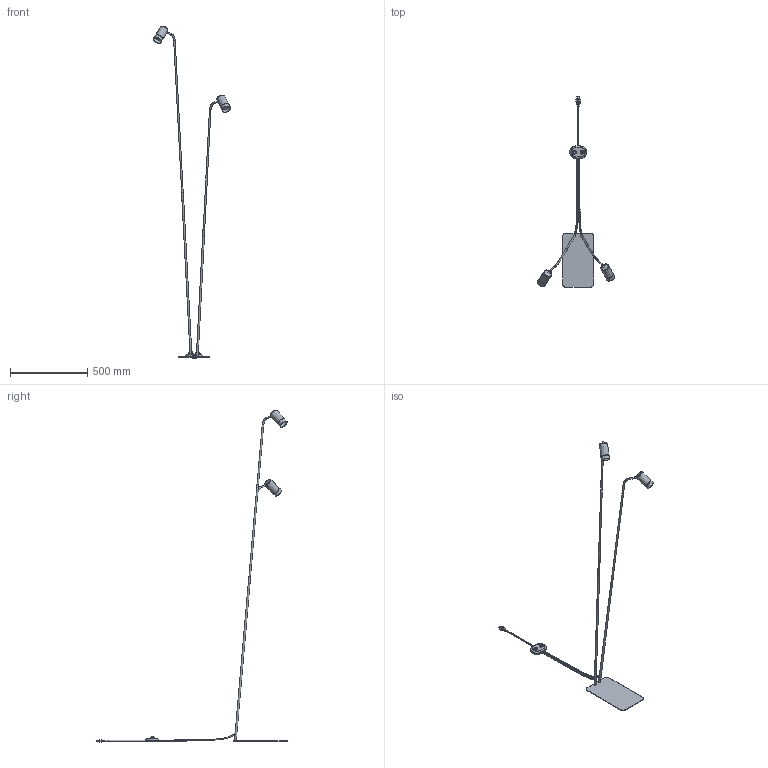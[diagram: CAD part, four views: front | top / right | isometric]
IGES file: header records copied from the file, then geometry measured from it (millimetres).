
Start section: SolidWorks IGES file using NURBS representation for surfaces
Global section: file name: Z:\Modele 3D_WWW\_KOLEKCJE_WWW\MONO\MONO-POD｣OGA\7705\MONO-II-7705.IGS; native system: SolidWorks 2021; preprocessor: SolidWorks 2021; author: gabriela.tworek; date: 220127.124500; units: millimetre
Bounding box: 497.5 x 1231.09 x 2146.5 mm (x, y, z)
Surface area: 428572.6 mm2 (no closed solid volume)
Topology: 0 solids, 0 shells, 180 faces, 955 edges, 923 vertices
Faces by surface type: bspline 180
